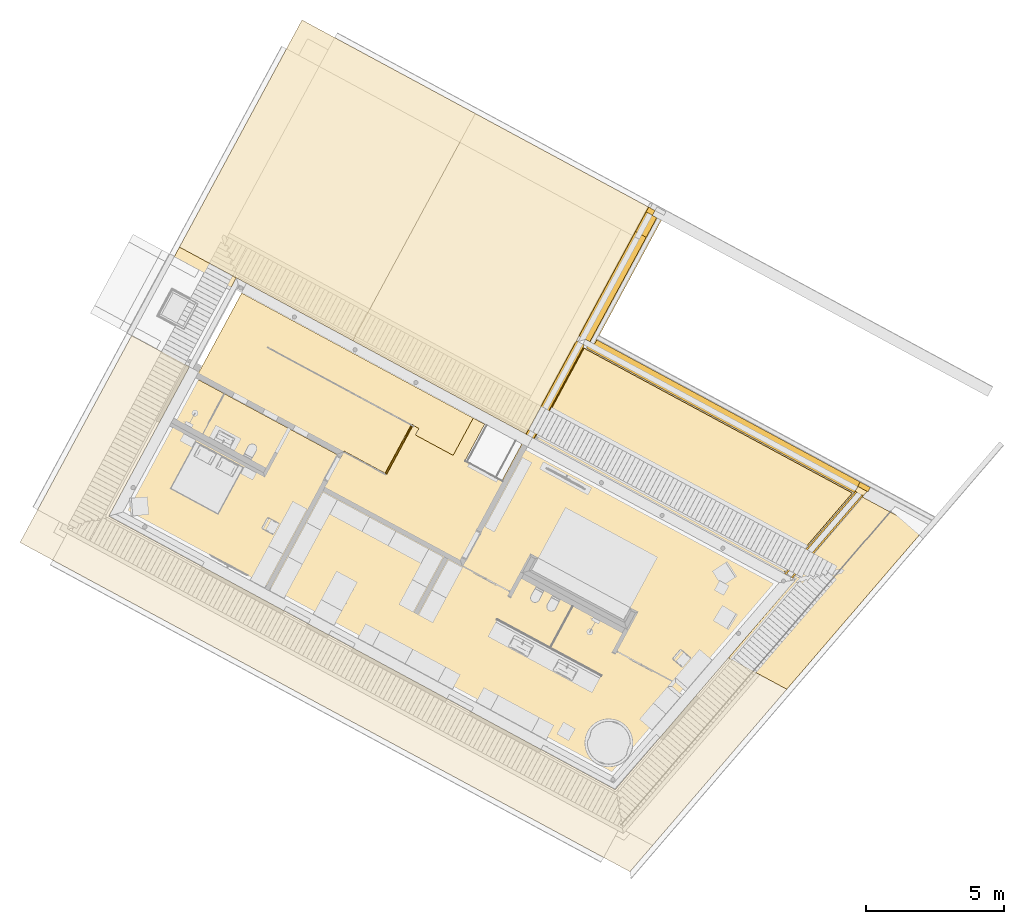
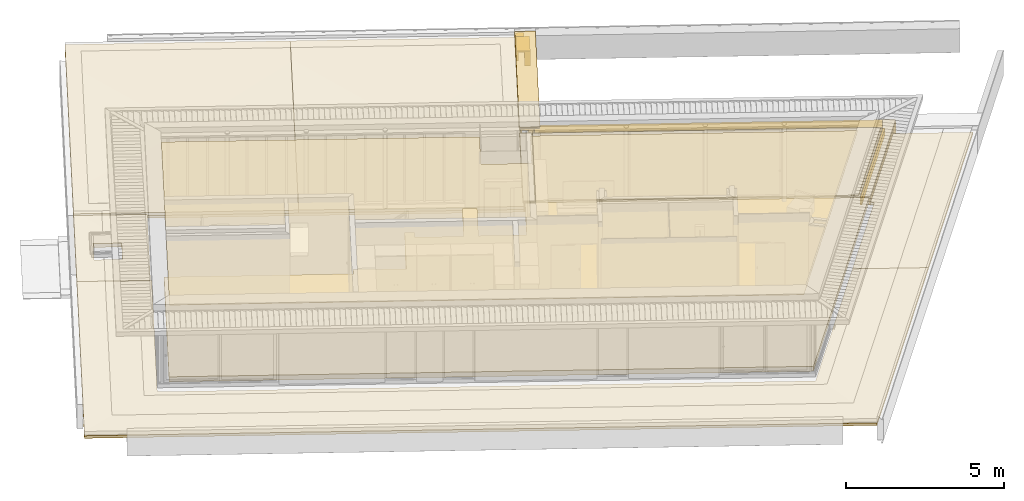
# One storey, part 10 of 41: 22 coverings.
"""IFC2X3 building model written with IfcOpenShell, lengths in metres."""

import ifcopenshell
import ifcopenshell.guid

model = None  # the IFC model being written
_history = None  # IfcOwnerHistory: only IFC2X3 demands one
_inside = {}  # id of a spatial element -> (the spatial element, [elements in it])
_under = {}  # id of a project, library or spatial element -> (it, [spatial elements below it])
_declared = {}  # id of a project -> (the project, [libraries it declares])
_typed = {}  # id of a type object -> (the type object, [elements of that type])
_made_of = {}  # id of a material, layer set ... -> (it, [elements and type objects made of it])


def new_model(schema):
    """Start an empty IFC model of exactly this schema.

    Asked for "IFC4X3", IfcOpenShell would pick the latest addendum, in which some entities
    have other attributes; the version numbers below select the first issue.
    IFC2X3 requires an IfcOwnerHistory on every rooted entity: one is made here for all.
    """
    global model, _history
    if schema == "IFC4X3":
        model = ifcopenshell.file(schema_version=(4, 3, 0, 0))
    else:
        model = ifcopenshell.file(schema=schema)
    _inside.clear()
    _under.clear()
    _declared.clear()
    _typed.clear()
    _made_of.clear()
    _history = None
    if model.schema == "IFC2X3":
        org = make("IfcOrganization", Name="unknown")
        user = make(
            "IfcPersonAndOrganization",
            ThePerson=make("IfcPerson", FamilyName="unknown"),
            TheOrganization=org,
        )
        app = make(
            "IfcApplication",
            ApplicationDeveloper=org,
            Version="unknown",
            ApplicationFullName="unknown",
            ApplicationIdentifier="unknown",
        )
        _history = make(
            "IfcOwnerHistory",
            OwningUser=user,
            OwningApplication=app,
            ChangeAction="ADDED",
            CreationDate=0,
        )
    return model


def make(cls, **values):
    """One entity of the class cls with the attributes given. An attribute that is None is left unset."""
    return model.create_entity(
        cls, **{name: value for name, value in values.items() if value is not None}
    )


def entity(cls, *values):
    """Any entity or typed value of the class cls, its attributes in the order of the schema. None: left unset."""
    e = model.create_entity(cls)
    for i, value in enumerate(values):
        if value is not None:
            e[i] = value
    return e


def rooted(cls, **values):
    """An entity with a GlobalId (a new one), such as an element, a storey or a relation."""
    return make(cls, GlobalId=ifcopenshell.guid.new(), OwnerHistory=_history, **values)


def si_unit(unit_type, name, prefix=None):
    """IfcSIUnit, for example si_unit("LENGTHUNIT", "METRE", prefix="MILLI")."""
    return make("IfcSIUnit", UnitType=unit_type, Prefix=prefix, Name=name)


def converted_unit(unit_type, name, factor, base, dimensions=None, offset=None):
    """IfcConversionBasedUnit, such as the inch: factor (a typed value) times the base unit."""
    return make(
        "IfcConversionBasedUnit"
        if offset is None
        else "IfcConversionBasedUnitWithOffset",
        ConversionOffset=offset,
        Dimensions=None
        if dimensions is None
        else entity("IfcDimensionalExponents", *dimensions),
        UnitType=unit_type,
        Name=name,
        ConversionFactor=make(
            "IfcMeasureWithUnit", ValueComponent=factor, UnitComponent=base
        ),
    )


def derived_unit(unit_type, elements):
    """IfcDerivedUnit: a product of units, each with its exponent."""
    return make(
        "IfcDerivedUnit",
        Elements=[
            make("IfcDerivedUnitElement", Unit=unit, Exponent=power)
            for unit, power in elements
        ],
        UnitType=unit_type,
    )


def money_unit(currency):
    """IfcMonetaryUnit."""
    return make("IfcMonetaryUnit", Currency=currency)


def assignment(units):
    """IfcUnitAssignment: the units of a project."""
    return None if units is None else make("IfcUnitAssignment", Units=units)


def point(xyz):
    """IfcCartesianPoint."""
    return None if xyz is None else make("IfcCartesianPoint", Coordinates=xyz)


def direction(xyz):
    """IfcDirection."""
    return None if xyz is None else make("IfcDirection", DirectionRatios=xyz)


def frame(location, z_axis=None, x_axis=None):
    """IfcAxis2Placement3D, a coordinate frame: its origin and axes. An axis left out is left unset."""
    return make(
        "IfcAxis2Placement3D",
        Location=point(location),
        Axis=direction(z_axis),
        RefDirection=direction(x_axis),
    )


def origin_with_axes():
    """The frame at (0, 0, 0) with the z axis (0, 0, 1) and the x axis (1, 0, 0) written out."""
    return frame((0.0, 0.0, 0.0), z_axis=(0.0, 0.0, 1.0), x_axis=(1.0, 0.0, 0.0))


def place(relative_to, where):
    """IfcLocalPlacement: puts the frame where relative to a parent placement (None: the world)."""
    return make(
        "IfcLocalPlacement", PlacementRelTo=relative_to, RelativePlacement=where
    )


def context(
    kind, dimensions, precision=None, world=None, true_north=None, identifier=None
):
    """IfcGeometricRepresentationContext, for example the 3D "Model" context."""
    return make(
        "IfcGeometricRepresentationContext",
        ContextIdentifier=identifier,
        ContextType=kind,
        CoordinateSpaceDimension=dimensions,
        Precision=precision,
        WorldCoordinateSystem=world,
        TrueNorth=true_north,
    )


def subcontext(parent, identifier, kind, view, scale=None):
    """IfcGeometricRepresentationSubContext, for example "Body" below "Model"."""
    return make(
        "IfcGeometricRepresentationSubContext",
        ContextIdentifier=identifier,
        ContextType=kind,
        ParentContext=parent,
        TargetScale=scale,
        TargetView=view,
    )


def project(units=None, contexts=None):
    """IfcProject with its units and contexts."""
    return rooted(
        "IfcProject",
        Name="project",
        RepresentationContexts=contexts,
        UnitsInContext=assignment(units),
    )


def spatial(cls, under=None, at=None, **own):
    """A site, building, storey or space (cls), placed at a placement, below another one or the project."""
    s = rooted(cls, ObjectPlacement=at, **own)
    if under is not None:
        _under.setdefault(under.id(), (under, []))[1].append(s)
    return s


def polyline(points):
    """IfcPolyline through the points."""
    return make("IfcPolyline", Points=[point(p) for p in points])


def outline(outer, holes=None, kind="AREA"):
    """IfcArbitraryClosedProfileDef: a profile drawn as a closed curve; with holes, ...WithVoids."""
    if holes is None:
        return make("IfcArbitraryClosedProfileDef", ProfileType=kind, OuterCurve=outer)
    return make(
        "IfcArbitraryProfileDefWithVoids",
        ProfileType=kind,
        OuterCurve=outer,
        InnerCurves=holes,
    )


def composite_profile(profiles, kind="AREA"):
    """IfcCompositeProfileDef: several profiles as one."""
    return make("IfcCompositeProfileDef", ProfileType=kind, Profiles=profiles)


def extrude(swept, where, along, depth):
    """IfcExtrudedAreaSolid: the profile swept, set in the frame where, extruded along a direction by depth."""
    return make(
        "IfcExtrudedAreaSolid",
        SweptArea=swept,
        Position=where,
        ExtrudedDirection=direction(along),
        Depth=depth,
    )


def boolean(op, a, b):
    """IfcBooleanResult of two solids."""
    return make("IfcBooleanResult", Operator=op, FirstOperand=a, SecondOperand=b)


def faces_of(points, faces, orient=None, outer=None):
    """IfcFace entities. A face is a list of loops; a loop is a list of indices into points, from 0.

    orient and outer hold one flag for each loop. By default every Orientation is true, the
    first loop of a face is its IfcFaceOuterBound and the others are IfcFaceBound.
    """
    made = []
    for i, loops in enumerate(faces):
        bounds = []
        for j, loop in enumerate(loops):
            is_outer = j == 0 if outer is None else outer[i][j]
            bounds.append(
                make(
                    "IfcFaceOuterBound" if is_outer else "IfcFaceBound",
                    Bound=make("IfcPolyLoop", Polygon=[points[k] for k in loop]),
                    Orientation=True if orient is None else orient[i][j],
                )
            )
        made.append(make("IfcFace", Bounds=bounds))
    return made


def faceted_brep(points, faces, orient=None, outer=None, voids=None):
    """IfcFacetedBrep: a solid bounded by flat faces; with voids (closed shells), ...WithVoids."""
    shared = [point(p) for p in points]
    hull = make("IfcClosedShell", CfsFaces=faces_of(shared, faces, orient, outer))
    if voids is None:
        return make("IfcFacetedBrep", Outer=hull)
    return make(
        "IfcFacetedBrepWithVoids",
        Outer=hull,
        Voids=[
            make(cls, CfsFaces=faces_of(shared, fs, o, b)) for cls, fs, o, b in voids
        ],
    )


def shape(context_of_items, identifier, shape_type, items):
    """IfcShapeRepresentation: the items that make up one representation, for example the "Body"."""
    return make(
        "IfcShapeRepresentation",
        ContextOfItems=context_of_items,
        RepresentationIdentifier=identifier,
        RepresentationType=shape_type,
        Items=items,
    )


def material(Name=None, Category=None):
    """IfcMaterial."""
    return make("IfcMaterial", Name=Name, Category=Category)


def material_list(materials):
    """IfcMaterialList."""
    return make("IfcMaterialList", Materials=materials)


def made_of(thing, what):
    """Note that an element or type object is made of a material, layer set ...; save() writes the relation."""
    if what is not None:
        _made_of.setdefault(what.id(), (what, []))[1].append(thing)
    return thing


def type_object(cls, material=None, **own):
    """A type object (cls), such as IfcWallType, which elements share."""
    return made_of(rooted(cls, **own), material)


def element(
    cls,
    number,
    at=None,
    inside=None,
    cuts=None,
    type_object=None,
    material=None,
    context=None,
    identifier="Body",
    shape_type=None,
    held_by="IfcProductDefinitionShape",
    body=None,
    shapes=None,
    **own,
):
    """One element of the class cls, such as IfcWall. Its Tag is "e" and its number.

    at: its placement. inside: the storey or other place that contains it. cuts: it is an
    opening in that element (IfcRelVoidsElement). A single representation is given by context,
    identifier, shape_type and body (its items); several are given by shapes. held_by: the class
    of the entity that holds the representations. save() writes the other relations.
    """
    e = rooted(cls, Tag="e%d" % number, ObjectPlacement=at, **own)
    if body is not None:
        shapes = [shape(context, identifier, shape_type, body)]
    if shapes is not None:
        e.Representation = make(held_by, Representations=shapes)
    if inside is not None:
        _inside.setdefault(inside.id(), (inside, []))[1].append(e)
    if cuts is not None:
        rooted(
            "IfcRelVoidsElement", RelatingBuildingElement=cuts, RelatedOpeningElement=e
        )
    if type_object is not None:
        _typed.setdefault(type_object.id(), (type_object, []))[1].append(e)
    return made_of(e, material)


def aggregate(whole, parts):
    """IfcRelAggregates: a whole, such as a stair, and the parts it consists of."""
    return rooted("IfcRelAggregates", RelatingObject=whole, RelatedObjects=parts)


def save(model, path):
    """Write the relations noted so far, then the file.

    IfcRelAggregates (storeys below a building ...), IfcRelContainedInSpatialStructure (elements
    in a storey), IfcRelDefinesByType, IfcRelAssociatesMaterial and IfcRelDeclares: one each for
    every whole, place, type object, material and project.
    """
    for whole, parts in _under.values():
        aggregate(whole, parts)
    for where, things in _inside.values():
        rooted(
            "IfcRelContainedInSpatialStructure",
            RelatedElements=things,
            RelatingStructure=where,
        )
    for kind, things in _typed.values():
        rooted("IfcRelDefinesByType", RelatedObjects=things, RelatingType=kind)
    for what, things in _made_of.values():
        rooted("IfcRelAssociatesMaterial", RelatedObjects=things, RelatingMaterial=what)
    for by, libraries in _declared.values():
        rooted("IfcRelDeclares", RelatingContext=by, RelatedDefinitions=libraries)
    model.write(path)


model = new_model("IFC2X3")

# Units and contexts
model_context = context("Model", 3, precision=1e-05, world=origin_with_axes(), true_north=direction((0.0, 1.0)))
body_context = subcontext(model_context, "Body", "Model", "MODEL_VIEW")
ifc_project = project(units=[si_unit("LENGTHUNIT", "METRE"), si_unit("AREAUNIT", "SQUARE_METRE"), si_unit("VOLUMEUNIT", "CUBIC_METRE"), converted_unit("PLANEANGLEUNIT", "DEGREE", entity("IfcPlaneAngleMeasure", 0.0174532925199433), si_unit("PLANEANGLEUNIT", "RADIAN"), dimensions=[0, 0, 0, 0, 0, 0, 0]), money_unit("EUR"), converted_unit("TIMEUNIT", "Year", entity("IfcTimeMeasure", 31556926.0), si_unit("TIMEUNIT", "SECOND"), dimensions=[0, 0, 1, 0, 0, 0, 0]), si_unit("MASSUNIT", "GRAM", prefix="KILO"), si_unit("THERMODYNAMICTEMPERATUREUNIT", "DEGREE_CELSIUS"), si_unit("LUMINOUSINTENSITYUNIT", "LUMEN"), si_unit("ENERGYUNIT", "JOULE", prefix="MEGA"), derived_unit("THERMALCONDUCTANCEUNIT", [(si_unit("POWERUNIT", "WATT"), 1), (si_unit("LENGTHUNIT", "METRE"), -1), (si_unit("THERMODYNAMICTEMPERATUREUNIT", "KELVIN"), -1)]), derived_unit("SPECIFICHEATCAPACITYUNIT", [(si_unit("ENERGYUNIT", "JOULE"), 1), (si_unit("MASSUNIT", "GRAM", prefix="KILO"), -1), (si_unit("THERMODYNAMICTEMPERATUREUNIT", "KELVIN"), -1)]), derived_unit("MASSDENSITYUNIT", [(si_unit("MASSUNIT", "GRAM", prefix="KILO"), 1), (si_unit("VOLUMEUNIT", "CUBIC_METRE"), -1)])], contexts=[model_context])

# Site, building, storey
site_placement = place(None, frame((-3.949935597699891, 1.740105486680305, 0.0), z_axis=(0.0, 0.0, 1.0), x_axis=(0.8799804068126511, -0.475009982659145, 0.0)))
site = spatial("IfcSite", under=ifc_project, at=site_placement, Name="Gelände", CompositionType="ELEMENT")
building_placement = place(site_placement, origin_with_axes())
building = spatial("IfcBuilding", under=site, at=building_placement, Name="Gebäude", CompositionType="ELEMENT")
storey_placement = place(building_placement, frame((0.0, 0.0, 4.55), z_axis=(0.0, 0.0, 1.0), x_axis=(1.0, 0.0, 0.0)))
storey = spatial("IfcBuildingStorey", under=building, at=storey_placement, Name="Staffelgeschoss", CompositionType="ELEMENT", Elevation=4.55)

# Coverings
ifc_material_1 = material(Name="_SIWH - Dämmung, hart Mineralwolle")
covering_type_1 = type_object("IfcCoveringType", Name="_SIWH - Dämmung, hart Mineralwolle 60", PredefinedType="INSULATION")
covering_1_placement = place(storey_placement, frame((27.7493589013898, 11.03779043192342, -0.06499999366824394), z_axis=(0.0, 0.0, 1.0), x_axis=(1.0, 0.0, 0.0)))
element("IfcCovering", 1, at=covering_1_placement, inside=storey, type_object=covering_type_1, material=ifc_material_1, Name="Decke017", PredefinedType="INSULATION", context=body_context, shape_type="SweptSolid", body=[
    extrude(outline(polyline([(0.0, 0.0), (0.3278595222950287, 1.017655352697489e-05), (1.21137524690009, 4.045255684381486), (1.250688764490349, 4.225255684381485), (0.8267267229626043, 4.225255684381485), (0.8268324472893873, 3.785232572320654), (0.0, 0.0)])), frame((0.0, 0.0, -0.06), z_axis=(0.0, 0.0, 1.0), x_axis=(1.0, 0.0, 0.0)), (0.0, 0.0, 1.0), 0.06),
])
ifc_material_2 = material(Name="Gipskarton")
covering_type_2 = type_object("IfcCoveringType", Name="Gipskarton 15", PredefinedType="CEILING")
covering_2_placement = place(storey_placement, frame((15.6924954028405, 10.64280060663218, 2.749999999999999), z_axis=(0.0, 0.0, 1.0), x_axis=(1.0, 0.0, 0.0)))
element("IfcCovering", 2, at=covering_2_placement, inside=storey, type_object=covering_type_2, material=ifc_material_2, Name="Decke002", PredefinedType="CEILING", context=body_context, shape_type="SweptSolid", body=[
    extrude(outline(polyline([(0.0, 0.0), (-10.08001815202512, 0.0), (-10.08000946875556, -9.002808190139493), (10.00957970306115, -9.002808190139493), (11.97586896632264, 0.0), (1.595010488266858, 0.0), (1.595010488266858, -1.51500001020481), (0.0, -1.515001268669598), (0.0, 0.0)])), origin_with_axes(), (0.0, 0.0, 1.0), 0.015),
])
ifc_material_3 = material(Name="_SIWH - Belag Terrasse SG")
covering_type_3 = type_object("IfcCoveringType", Name="_SIWH - Belag Terrasse SG 40", PredefinedType="ROOFING")
covering_3_placement = place(storey_placement, frame((17.47749037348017, 11.05780061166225, -0.02000000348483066), z_axis=(0.0, 0.0, 1.0), x_axis=(1.0, 0.0, 0.0)))
element("IfcCovering", 3, at=covering_3_placement, inside=storey, type_object=covering_type_3, material=ifc_material_3, Name="Decke052", PredefinedType="ROOFING", context=body_context, shape_type="SweptSolid", body=[
    extrude(outline(polyline([(0.0, 0.0), (10.22497345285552, 0.0), (11.0368158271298, 3.715247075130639), (0.0, 3.715247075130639), (0.0, 0.0)])), frame((0.0, 0.0, -0.04), z_axis=(0.0, 0.0, 1.0), x_axis=(1.0, 0.0, 0.0)), (0.0, 0.0, 1.0), 0.04),
])
covering_type_4 = type_object("IfcCoveringType", Name="_SIWH - Dämmung, hart Mineralwolle 100", PredefinedType="INSULATION")
covering_4_placement = place(storey_placement, frame((2.837489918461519, 20.38528216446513, -0.3499999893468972), z_axis=(0.0, 0.0, 1.0), x_axis=(1.0, 0.0, 0.0)))
element("IfcCovering", 4, at=covering_4_placement, inside=storey, type_object=covering_type_4, material=ifc_material_1, Name="Decke012", PredefinedType="INSULATION", context=body_context, shape_type="SweptSolid", body=[
    extrude(outline(polyline([(0.0, 0.0), (0.0, -9.34748161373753), (2.519992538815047, -9.34748161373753), (14.27000043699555, -9.34748161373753), (14.26998597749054, 0.0), (0.0, 0.0)])), frame((0.0, 0.0, -0.1), z_axis=(0.0, 0.0, 1.0), x_axis=(1.0, 0.0, 0.0)), (0.0, 0.0, 1.0), 0.1),
])
covering_5_placement = place(storey_placement, frame((2.837482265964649, 7.393058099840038, -0.299999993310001), z_axis=(0.0, 0.0, 1.0), x_axis=(1.0, 0.0, 0.0)))
element("IfcCovering", 5, at=covering_5_placement, inside=storey, type_object=covering_type_4, material=ifc_material_1, Name="Decke011", PredefinedType="INSULATION", context=body_context, shape_type="SweptSolid", body=[
    extrude(outline(polyline([(0.0, 0.0), (0.0, -8.513069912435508), (25.10733588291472, -8.513069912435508), (25.62387165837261, -6.148070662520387), (26.96666212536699, 0.0), (24.56636302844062, 0.0), (23.22357255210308, -6.148070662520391), (2.379998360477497, -6.148070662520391), (2.379998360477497, 0.0), (0.0, 0.0)])), frame((0.0, 0.0, -0.1000000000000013), z_axis=(0.0, 0.0, 1.0), x_axis=(1.0, 0.0, 0.0)), (0.0, 0.0, 1.0), 0.1000000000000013),
])
covering_6_placement = place(storey_placement, frame((29.80414439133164, 7.393058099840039, -0.299999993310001), z_axis=(0.0, 0.0, 1.0), x_axis=(1.0, 0.0, 0.0)))
element("IfcCovering", 6, at=covering_6_placement, inside=storey, type_object=covering_type_4, material=ifc_material_1, Name="Decke022", PredefinedType="INSULATION", context=body_context, shape_type="SweptSolid", body=[
    extrude(outline(polyline([(0.0, 0.0), (1.622772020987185, 7.429987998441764), (-0.9001964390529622, 7.429987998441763), (-1.726925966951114, 3.644742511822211), (-1.60425659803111, 3.644742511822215), (-2.400299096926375, 0.0), (0.0, 0.0)])), frame((0.0, 0.0, -0.1000000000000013), z_axis=(0.0, 0.0, 1.0), x_axis=(1.0, 0.0, 0.0)), (0.0, 0.0, 1.0), 0.1000000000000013),
])
ifc_material_4 = material(Name="Dämmung, hart Mineralwolle")
covering_type_5 = type_object("IfcCoveringType", Name="Dämmung, hart Mineralwolle", PredefinedType="INSULATION")
covering_7_placement = place(storey_placement, frame((9.972490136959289, 11.0378005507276, -0.3499999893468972), z_axis=(0.0, 0.0, 1.0), x_axis=(1.0, 0.0, 0.0)))
element("IfcCovering", 7, at=covering_7_placement, inside=storey, type_object=covering_type_5, material=ifc_material_4, Name="Freifläche-006", PredefinedType="INSULATION", context=body_context, shape_type="Brep", body=[
    faceted_brep([(7.135000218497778, 8.241240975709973, 0.0909999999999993), (3.56750010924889, 4.673740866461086, 0.01999999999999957), (7.135000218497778, 1.1062407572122, 0.0909999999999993), (0.0, 8.241240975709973, 0.0909999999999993), (0.0, 1.1062407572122, 0.0909999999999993), (7.135000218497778, 9.34748161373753, 0.0), (7.135000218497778, 9.34748161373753, 0.1159999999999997), (7.135000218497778, 0.0, 0.1159999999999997), (7.135000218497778, 0.0, 0.0), (0.0, 9.34748161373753, 0.1159999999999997), (0.0, 0.0, 0.1159999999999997), (0.0, 9.34748161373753, 0.0), (0.0, 0.0, 0.0)], [[[0, 1, 2]], [[3, 1, 0]], [[4, 2, 1]], [[5, 6, 0, 2, 7, 8]], [[4, 1, 3]], [[3, 0, 6, 9]], [[4, 10, 7, 2]], [[11, 9, 6, 5]], [[8, 7, 10, 12]], [[5, 8, 12, 11]], [[12, 10, 4, 3, 9, 11]]]),
])
covering_8_placement = place(storey_placement, frame((2.837489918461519, 11.0378005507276, -0.3499999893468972), z_axis=(0.0, 0.0, 1.0), x_axis=(1.0, 0.0, 0.0)))
element("IfcCovering", 8, at=covering_8_placement, inside=storey, type_object=covering_type_5, material=ifc_material_4, Name="Freifläche-006", PredefinedType="INSULATION", context=body_context, shape_type="Brep", body=[
    faceted_brep([(0.0, 8.241240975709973, 0.0909999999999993), (3.567500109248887, 4.673740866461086, 0.01999999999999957), (7.135000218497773, 8.241240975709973, 0.0909999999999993), (0.0, 1.1062407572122, 0.0909999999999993), (7.135000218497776, 1.1062407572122, 0.0909999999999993), (0.0, 9.34748161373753, 0.1159999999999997), (7.135000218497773, 9.34748161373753, 0.1159999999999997), (0.0, 0.0, 0.0), (0.0, 0.0, 0.1159999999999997), (0.0, 9.34748161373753, 0.0), (7.135000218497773, 9.34748161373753, 0.0), (7.135000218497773, 0.0, 0.1159999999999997), (7.135000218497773, 0.0, 0.0)], [[[0, 1, 2]], [[3, 1, 0]], [[4, 2, 1]], [[5, 0, 2, 6]], [[4, 1, 3]], [[7, 8, 3, 0, 5, 9]], [[10, 6, 2, 4, 11, 12]], [[9, 5, 6, 10]], [[11, 4, 3, 8]], [[12, 11, 8, 7]], [[9, 10, 12, 7]]]),
])
ifc_material_5 = material(Name="ALLGEMEIN - BAUTEIL")
covering_type_6 = type_object("IfcCoveringType", Name="_SIWH - BO | SG 190", PredefinedType="FLOORING")
covering_9_placement = place(storey_placement, frame((5.597480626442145, 7.138059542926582, 0.0), z_axis=(0.0, 0.0, 1.0), x_axis=(1.0, 0.0, 0.0)))
element("IfcCovering", 9, at=covering_9_placement, inside=storey, type_object=covering_type_6, material=ifc_material_5, Name="Decke005", PredefinedType="FLOORING", context=body_context, shape_type="SweptSolid", body=[
    extrude(outline(polyline([(0.0, 0.0), (0.0, -5.513071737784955), (20.40876796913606, -5.513072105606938), (22.43403297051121, 3.759761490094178), (11.54000518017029, 3.759761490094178), (11.54000518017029, 1.98974111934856), (10.01632630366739, 1.989741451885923), (10.01632630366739, 3.50474113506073), (9.546936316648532, 3.504742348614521), (9.54693234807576, 1.969739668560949), (7.995011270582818, 1.969735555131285), (7.995010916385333, 2.239734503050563), (7.682532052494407, 2.239735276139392), (7.682527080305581, 0.229999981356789), (5.996714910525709, 0.2300000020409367), (5.996714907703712, -4.866271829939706e-08), (1.245000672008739, 0.0), (1.043000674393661, 0.0), (0.0, 0.0)])), frame((0.0, 0.0, -0.19), z_axis=(0.0, 0.0, 1.0), x_axis=(1.0, 0.0, 0.0)), (0.0, 0.0, 1.0), 0.19),
])
ifc_material_6 = material(Name="_SIWH - Holz, Bauholz")
ifc_material_7 = material(Name="_SIWH - Metall, Aluminium")
ifc_material_list_1 = material_list([ifc_material_6, ifc_material_7])
covering_type_7 = type_object("IfcCoveringType", Name="_SIWH - Attikablech1 Achse3+B EG 660 x 115", PredefinedType="ROOFING")
covering_10_placement = place(storey_placement, frame((17.36749037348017, 15.0830461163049, -0.3999999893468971), z_axis=(0.0, 0.0, 1.0), x_axis=(-4.180477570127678e-06, 0.9999999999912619, 0.0)))
element("IfcCovering", 10, at=covering_10_placement, inside=storey, type_object=covering_type_7, material=ifc_material_list_1, Name="Wand-028", PredefinedType="ROOFING", context=body_context, shape_type="SweptSolid", body=[
    extrude(composite_profile([outline(polyline([(-0.2600000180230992, 0.3599999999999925), (-0.2600000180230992, 0.334999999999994), (0.3399999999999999, 0.334999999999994), (0.3399999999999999, 0.3599999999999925), (-0.2600000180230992, 0.3599999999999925)])), outline(polyline([(0.3699999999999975, 0.2849999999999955), (0.3699999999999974, 0.3999999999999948), (-0.2900000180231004, 0.3768999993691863), (-0.2900000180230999, 0.2849999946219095), (-0.2880000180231, 0.2869999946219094), (-0.2702236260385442, 0.3047763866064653), (-0.2716378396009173, 0.3061906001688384), (-0.2880000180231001, 0.2898284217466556), (-0.2880000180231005, 0.3749687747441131), (0.3679999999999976, 0.3979287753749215), (0.367999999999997, 0.2898284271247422), (0.3514142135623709, 0.3064142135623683), (0.3499999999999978, 0.3049999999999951), (0.3699999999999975, 0.2849999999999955)]))]), frame((0.0, 0.0, 0.0), z_axis=(-1.0, 0.0, 0.0), x_axis=(0.0, -1.0, 0.0)), (0.0, 0.0, -1.0), 5.302236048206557),
])
ifc_material_8 = material(Name="_SIWH - Dämmung, weich Mineralwolle")
ifc_material_list_2 = material_list([ifc_material_8, ifc_material_1])
covering_type_8 = type_object("IfcCoveringType", Name="_SIWH - Attika1 AchseB EG 440 x 865", PredefinedType="INSULATION")
covering_11_placement = place(storey_placement, frame((17.54747601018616, 15.0830461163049, -0.3999999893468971), z_axis=(0.0, 0.0, 1.0), x_axis=(1.0, 0.0, 0.0)))
element("IfcCovering", 11, at=covering_11_placement, inside=storey, type_object=covering_type_8, material=ifc_material_list_2, Name="A-Wand057", PredefinedType="INSULATION", context=body_context, shape_type="SweptSolid", body=[
    extrude(composite_profile([outline(polyline([(4.999215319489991e-09, 0.2749999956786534), (4.999215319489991e-09, -0.5300000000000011), (0.1800000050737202, -0.5300000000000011), (0.1800000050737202, 0.2749999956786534), (4.999215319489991e-09, 0.2749999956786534)])), outline(polyline([(-0.2000000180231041, 0.0), (-0.2000000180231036, 0.2749999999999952), (4.999215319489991e-09, 0.2749999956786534), (0.1799999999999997, 0.2749999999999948), (0.1799999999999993, 0.3349999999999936), (-0.2600000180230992, 0.334999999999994), (-0.2600000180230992, 0.0), (-0.2000000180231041, 0.0)]))]), frame((0.0, 0.0, 0.0), z_axis=(1.0, 0.0, 0.0), x_axis=(0.0, 1.0, 0.0)), (0.0, 0.0, 1.0), 11.02860961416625),
])
covering_type_9 = type_object("IfcCoveringType", Name="_SIWH - Dämmung, hart Mineralwolle 275", PredefinedType="INSULATION")
covering_12_placement = place(storey_placement, frame((28.8554786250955, 14.88304610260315, -0.1249999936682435), z_axis=(0.0, 0.0, 1.0), x_axis=(1.0, 0.0, 0.0)))
element("IfcCovering", 12, at=covering_12_placement, inside=storey, type_object=covering_type_9, material=ifc_material_1, Name="Decke018", PredefinedType="INSULATION", context=body_context, shape_type="SweptSolid", body=[
    extrude(outline(polyline([(0.0, 0.0), (-0.8398340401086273, -3.845245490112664), (-0.7782602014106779, -3.845245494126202), (0.04846932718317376, -0.06000000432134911), (0.04846932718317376, 0.0), (0.0, 0.0)])), frame((0.0, 0.0, -0.2749999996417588), z_axis=(0.0, 0.0, 1.0), x_axis=(1.0, 0.0, 0.0)), (0.0, 0.0, 1.0), 0.2749999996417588),
])
covering_13_placement = place(storey_placement, frame((28.58930257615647, 14.88304610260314, -0.1249999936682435), z_axis=(0.0, 0.0, 1.0), x_axis=(1.0, 0.0, 0.0)))
element("IfcCovering", 13, at=covering_13_placement, inside=storey, type_object=covering_type_9, material=ifc_material_1, Name="Decke019", PredefinedType="INSULATION", context=body_context, shape_type="SweptSolid", body=[
    extrude(outline(polyline([(0.0, 0.0), (-0.8399436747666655, -3.845255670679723), (-0.7783726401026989, -3.845245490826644), (0.06146139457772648, 0.0), (0.0, 0.0)])), frame((0.0, 0.0, -0.2749999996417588), z_axis=(0.0, 0.0, 1.0), x_axis=(1.0, 0.0, 0.0)), (0.0, 0.0, 1.0), 0.2749999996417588),
])
covering_type_10 = type_object("IfcCoveringType", Name="_SIWH - Attika1 Achse3 EG 440 x 865", PredefinedType="INSULATION")
covering_14_placement = place(storey_placement, frame((17.36747601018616, 19.38028828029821, -0.3999999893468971), z_axis=(0.0, 0.0, 1.0), x_axis=(0.0, -1.0, 0.0)))
element("IfcCovering", 14, at=covering_14_placement, inside=storey, type_object=covering_type_10, material=ifc_material_list_2, Name="A-Wand054", PredefinedType="INSULATION", context=body_context, shape_type="SweptSolid", body=[
    extrude(composite_profile([outline(polyline([(4.999215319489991e-09, 0.2749999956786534), (4.999215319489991e-09, -0.5300000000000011), (0.1800000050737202, -0.5300000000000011), (0.1800000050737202, 0.2749999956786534), (4.999215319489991e-09, 0.2749999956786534)])), outline(polyline([(-0.2000000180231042, -0.04999999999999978), (-0.2000000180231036, 0.2749999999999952), (4.999215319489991e-09, 0.2749999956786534), (0.1799999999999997, 0.2749999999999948), (0.1799999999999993, 0.3349999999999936), (-0.2600000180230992, 0.334999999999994), (-0.2600000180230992, -0.04999999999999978), (-0.2000000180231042, -0.04999999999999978)]))]), frame((0.0, 0.0, 0.0), z_axis=(1.0, 0.0, 0.0), x_axis=(0.0, 1.0, 0.0)), (0.0, 0.0, 1.0), 4.297242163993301),
])
covering_type_11 = type_object("IfcCoveringType", Name="_SIWH - Dämmung, hart Mineralwolle 140", PredefinedType="INSULATION")
covering_15_placement = place(storey_placement, frame((17.42749034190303, 14.82304602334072, -0.2599999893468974), z_axis=(0.0, 0.0, 1.0), x_axis=(1.0, 0.0, 0.0)))
element("IfcCovering", 15, at=covering_15_placement, inside=storey, type_object=covering_type_11, material=ifc_material_1, Name="Decke014", PredefinedType="INSULATION", context=body_context, shape_type="SweptSolid", body=[
    extrude(outline(polyline([(0.0, 0.0), (0.0, -3.785245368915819), (10.3218707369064, -3.785245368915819), (11.14870605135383, 0.0), (0.0, 0.0)])), frame((0.0, 0.0, -0.14), z_axis=(0.0, 0.0, 1.0), x_axis=(1.0, 0.0, 0.0)), (0.0, 0.0, 1.0), 0.14),
])
covering_type_12 = type_object("IfcCoveringType", Name="_SIWH - Attika2 Achse3 EG 440 x 585", PredefinedType="INSULATION")
covering_16_placement = place(storey_placement, frame((17.36747601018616, 20.18528216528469, -0.3999999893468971), z_axis=(0.0, 0.0, 1.0), x_axis=(0.0, -1.0, 0.0)))
element("IfcCovering", 16, at=covering_16_placement, inside=storey, type_object=covering_type_12, material=ifc_material_list_2, Name="A-Wand056", PredefinedType="INSULATION", context=body_context, shape_type="SweptSolid", body=[
    extrude(composite_profile([outline(polyline([(-3.494457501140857e-09, 0.2749999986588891), (-3.494457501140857e-09, -0.2499999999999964), (0.180000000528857, -0.2499999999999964), (0.180000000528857, 0.2749999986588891), (-3.494457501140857e-09, 0.2749999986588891)])), outline(polyline([(-0.2000000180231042, -0.04999999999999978), (-0.2000000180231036, 0.2749999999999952), (-3.494457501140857e-09, 0.2749999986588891), (0.1799999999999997, 0.2749999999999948), (0.1799999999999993, 0.3349999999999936), (-0.2600000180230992, 0.334999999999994), (-0.2600000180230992, -0.04999999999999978), (-0.2000000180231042, -0.04999999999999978)]))]), frame((0.0, 0.0, 0.0), z_axis=(1.0, 0.0, 0.0), x_axis=(0.0, 1.0, 0.0)), (0.0, 0.0, 1.0), 0.8049938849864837),
])
covering_type_13 = type_object("IfcCoveringType", Name="_SIWH - Attika3 Achse3 EG 260 x 385", PredefinedType="INSULATION")
covering_17_placement = place(storey_placement, frame((17.36747601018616, 20.38528216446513, -0.3999999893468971), z_axis=(0.0, 0.0, 1.0), x_axis=(0.0, -1.0, 0.0)))
element("IfcCovering", 17, at=covering_17_placement, inside=storey, type_object=covering_type_13, material=ifc_material_1, Name="A-Wand055", PredefinedType="INSULATION", context=body_context, shape_type="SweptSolid", body=[
    extrude(outline(polyline([(-0.2000000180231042, -0.04999999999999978), (-0.2000000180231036, 0.2749999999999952), (0.0, 0.274999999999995), (0.0, 0.3349999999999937), (-0.2600000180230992, 0.334999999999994), (-0.2600000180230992, -0.04999999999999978), (-0.2000000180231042, -0.04999999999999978)])), frame((0.0, 0.0, 0.0), z_axis=(1.0, 0.0, 0.0), x_axis=(0.0, 1.0, 0.0)), (0.0, 0.0, 1.0), 0.199999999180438),
])
covering_type_14 = type_object("IfcCoveringType", Name="_SIWH - Dämmung, weich Mineralwolle 180", PredefinedType="INSULATION")
covering_18_placement = place(storey_placement, frame((28.57608562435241, 15.0830461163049, -0.9299999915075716), z_axis=(0.0, 0.0, 1.0), x_axis=(1.0, 0.0, 0.0)))
element("IfcCovering", 18, at=covering_18_placement, inside=storey, type_object=covering_type_14, material=ifc_material_8, Name="A-Wand060", PredefinedType="INSULATION", context=body_context, shape_type="SweptSolid", body=[
    extrude(outline(polyline([(0.0, 0.0), (0.4239620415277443, 0.0), (0.4239620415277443, 0.1799999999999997), (0.0, 0.1799999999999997), (0.0, 0.0)])), origin_with_axes(), (0.0, 0.0, 1.0), 0.805),
])
covering_type_15 = type_object("IfcCoveringType", Name="_SIWH - Attikablech3 Achse3+4' EG 380 x 92", PredefinedType="ROOFING")
covering_19_placement = place(storey_placement, frame((17.36749042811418, 11.03780175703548, -0.3999999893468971), z_axis=(0.0, 0.0, 1.0), x_axis=(-4.180477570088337e-06, 0.9999999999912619, 0.0)))
element("IfcCovering", 19, at=covering_19_placement, inside=storey, type_object=covering_type_15, material=ifc_material_list_1, Name="Wand-028", PredefinedType="ROOFING", context=body_context, shape_type="SweptSolid", body=[
    extrude(composite_profile([outline(polyline([(-0.2600000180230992, 0.3599999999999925), (-0.2600000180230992, 0.334999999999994), (0.06000000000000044, 0.334999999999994), (0.06000000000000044, 0.3599999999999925), (-0.2600000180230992, 0.3599999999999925)])), outline(polyline([(0.09000000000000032, 0.2849999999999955), (0.09000000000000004, 0.3768999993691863), (-0.2900000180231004, 0.3768999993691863), (-0.2900000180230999, 0.2849999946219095), (-0.2880000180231, 0.2869999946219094), (-0.2702236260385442, 0.3047763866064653), (-0.2716378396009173, 0.3061906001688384), (-0.2880000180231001, 0.2898284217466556), (-0.2880000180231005, 0.3749687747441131), (0.08800000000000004, 0.374828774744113), (0.08799999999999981, 0.2898284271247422), (0.07141421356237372, 0.3064142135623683), (0.07000000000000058, 0.3049999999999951), (0.09000000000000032, 0.2849999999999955)]))]), frame((0.0, 0.0, 0.0), z_axis=(-1.0, 0.0, 0.0), x_axis=(0.0, -1.0, 0.0)), (0.0, 0.0, -1.0), 3.755245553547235),
])
covering_type_16 = type_object("IfcCoveringType", Name="ALLGEMEIN - BAUTEIL 50", PredefinedType="CLADDING")
covering_20_placement = place(storey_placement, frame((13.29501005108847, 9.377794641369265, -0.9499999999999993), z_axis=(0.0, 0.0, 1.0), x_axis=(0.0, -1.0, 0.0)))
element("IfcCovering", 20, at=covering_20_placement, inside=storey, type_object=covering_type_16, material=ifc_material_5, Name="I-Wand036", PredefinedType="CLADDING", context=body_context, shape_type="SweptSolid", body=[
    extrude(outline(polyline([(0.0, 0.0), (2.009733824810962, 0.0), (2.009733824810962, 0.05000000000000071), (0.0, 0.05000000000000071), (0.0, 0.0)])), origin_with_axes(), (0.0, 0.0, 1.0), 0.4264347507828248),
])
covering_type_17 = type_object("IfcCoveringType", Name="_SIWH - Attika4 Achse3 EG 320 x 385", PredefinedType="INSULATION")
covering_21_placement = place(storey_placement, frame((17.36749037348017, 14.88301818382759, -0.3999999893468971), z_axis=(0.0, 0.0, 1.0), x_axis=(0.0, -1.0, 0.0)))
element("IfcCovering", 21, at=covering_21_placement, inside=storey, type_object=covering_type_17, material=ifc_material_1, Name="A-Wand058", PredefinedType="INSULATION", context=body_context, shape_type="SweptSolid", body=[
    extrude(outline(polyline([(-0.2000000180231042, -0.04999999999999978), (-0.2000000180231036, 0.2749999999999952), (0.0, 0.2749999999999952), (0.0, 0.0), (0.06000000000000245, 0.0), (0.05999999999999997, 0.3349999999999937), (-0.2600000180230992, 0.334999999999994), (-0.2600000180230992, -0.04999999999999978), (-0.2000000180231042, -0.04999999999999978)])), frame((0.0, 0.0, 0.0), z_axis=(1.0, 0.0, 0.0), x_axis=(0.0, 1.0, 0.0)), (0.0, 0.0, 1.0), 3.845217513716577),
])
covering_type_18 = type_object("IfcCoveringType", Name="_SIWH - Dämmung, hart Mineralwolle 150", PredefinedType="INSULATION")
covering_22_placement = place(storey_placement, frame((2.837482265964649, 11.03780061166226, -0.299999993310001), z_axis=(0.0, 0.0, 1.0), x_axis=(1.0, 0.0, 0.0)))
element("IfcCovering", 22, at=covering_22_placement, inside=storey, type_object=covering_type_18, material=ifc_material_1, Name="Decke023", PredefinedType="INSULATION", context=body_context, shape_type="CSG", body=[
    boolean("DIFFERENCE", boolean("DIFFERENCE", extrude(outline(polyline([(0.0, 0.0), (0.0, -3.644742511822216), (2.379998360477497, -3.644742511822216), (2.379998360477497, 0.0), (0.0, 0.0)])), frame((0.0, 0.0, -0.1500000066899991), z_axis=(0.0, 0.0, 1.0), x_axis=(1.0, 0.0, 0.0)), (0.0, 0.0, 1.0), 0.1500000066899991), faceted_brep([(0.5850076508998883, -2.462383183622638, -0.1500000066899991), (0.5850076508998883, -1.562383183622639, -0.1500000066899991), (1.485007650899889, -1.562383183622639, -0.1500000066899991), (1.485007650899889, -2.462383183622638, -0.1500000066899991), (0.5850076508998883, -2.462383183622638, 0.0), (0.5850076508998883, -1.562383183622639, 0.0), (1.485007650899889, -1.562383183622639, 0.0), (1.485007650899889, -2.462383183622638, 0.0)], [[[0, 1, 2, 3]], [[4, 5, 1, 0]], [[5, 6, 2, 1]], [[6, 7, 3, 2]], [[7, 4, 0, 3]], [[4, 7, 6, 5]]])), faceted_brep([(2.339999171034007, 0.0, -0.1500000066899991), (2.339999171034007, 0.0, 0.0), (2.379998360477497, 0.0, 0.0), (2.379998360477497, 0.0, -0.1500000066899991), (2.339999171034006, -3.644741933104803, 0.0), (2.339999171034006, -3.644741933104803, -0.1500000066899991), (2.379998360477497, -3.644742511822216, 0.0), (2.379998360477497, -3.644742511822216, -0.1500000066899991)], [[[0, 1, 2, 3]], [[4, 1, 0, 5]], [[1, 4, 6, 2]], [[6, 7, 3, 2]], [[5, 0, 3, 7]], [[4, 5, 7, 6]]])),
])

save(model, "model.ifc")
